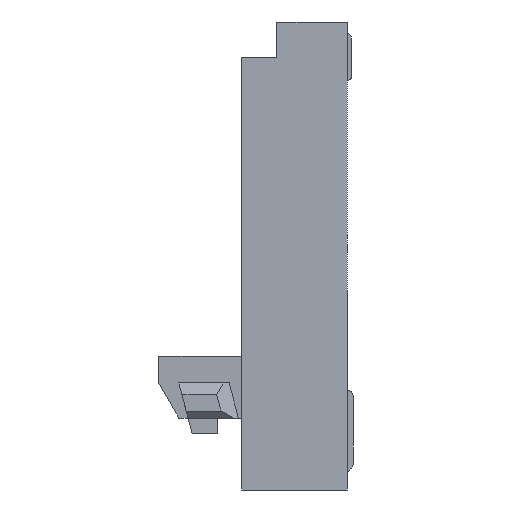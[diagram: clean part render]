
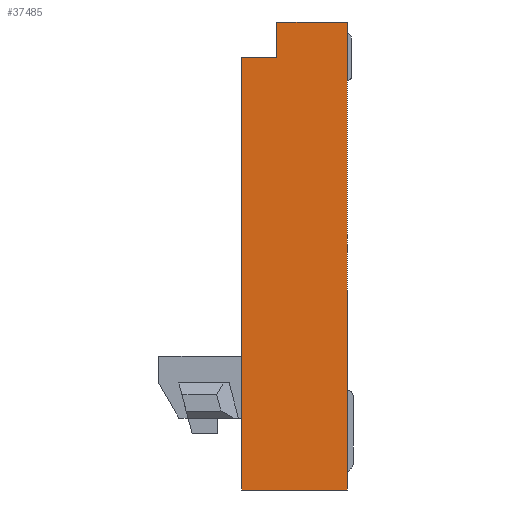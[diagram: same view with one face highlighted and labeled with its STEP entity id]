
A CAD part, left-side view. The second image highlights one B-rep face of the part: STEP entity #37485.
In plain terms, the highlighted planar face has unit normal (-1, 0, 0).
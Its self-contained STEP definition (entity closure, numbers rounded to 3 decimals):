
#938 = EDGE_CURVE ( 'NONE', #39872, #39873, #36174, .T. ) ;
#6388 = ORIENTED_EDGE ( 'NONE', *, *, #38498, .F. ) ;
#6389 = ORIENTED_EDGE ( 'NONE', *, *, #38495, .T. ) ;
#6390 = ORIENTED_EDGE ( 'NONE', *, *, #38497, .F. ) ;
#6391 = ORIENTED_EDGE ( 'NONE', *, *, #938, .T. ) ;
#6392 = ORIENTED_EDGE ( 'NONE', *, *, #37242, .T. ) ;
#6393 = ORIENTED_EDGE ( 'NONE', *, *, #37247, .T. ) ;
#11780 = VECTOR ( 'NONE', #25465, 1000. ) ;
#16584 = LINE ( 'NONE', #26509, #20020 ) ;
#16588 = LINE ( 'NONE', #26520, #20025 ) ;
#16766 = FACE_OUTER_BOUND ( 'NONE', #39384, .T. ) ;
#18615 = CARTESIAN_POINT ( 'NONE',  ( -7.7, 0., -4. ) ) ;
#18616 = CARTESIAN_POINT ( 'NONE',  ( -7.7, 0., 0. ) ) ;
#20020 = VECTOR ( 'NONE', #26510, 1000. ) ;
#20025 = VECTOR ( 'NONE', #26521, 1000. ) ;
#20326 = AXIS2_PLACEMENT_3D ( 'NONE', #27093, #27094, #27095 ) ;
#22381 = VECTOR ( 'NONE', #23025, 1000. ) ;
#22383 = VECTOR ( 'NONE', #23029, 1000. ) ;
#22384 = VECTOR ( 'NONE', #23031, 1000. ) ;
#23024 = CARTESIAN_POINT ( 'NONE',  ( -7.7, 0.9, 0. ) ) ;
#23025 = DIRECTION ( 'NONE',  ( 0., 1., 0. ) ) ;
#23028 = CARTESIAN_POINT ( 'NONE',  ( -7.7, 0., 0. ) ) ;
#23029 = DIRECTION ( 'NONE',  ( 0., 0., -1. ) ) ;
#23030 = CARTESIAN_POINT ( 'NONE',  ( -7.7, 0., -4. ) ) ;
#23031 = DIRECTION ( 'NONE',  ( 0., 1., 0. ) ) ;
#24214 = LINE ( 'NONE', #23024, #22381 ) ;
#24216 = LINE ( 'NONE', #23028, #22383 ) ;
#24217 = LINE ( 'NONE', #23030, #22384 ) ;
#25465 = DIRECTION ( 'NONE',  ( 0., 1., 0. ) ) ;
#25466 = CARTESIAN_POINT ( 'NONE',  ( -7.7, 1.5, -0.3 ) ) ;
#26509 = CARTESIAN_POINT ( 'NONE',  ( -7.7, 0.6, 0. ) ) ;
#26510 = DIRECTION ( 'NONE',  ( 0., 0., -1. ) ) ;
#26520 = CARTESIAN_POINT ( 'NONE',  ( -7.7, 0.9, 0. ) ) ;
#26521 = DIRECTION ( 'NONE',  ( 0., 0., -1. ) ) ;
#27092 = PLANE ( 'NONE',  #20326 ) ;
#27093 = CARTESIAN_POINT ( 'NONE',  ( -7.7, 0.9, 0. ) ) ;
#27094 = DIRECTION ( 'NONE',  ( -1., 0., 0. ) ) ;
#27095 = DIRECTION ( 'NONE',  ( 0., 0., 1. ) ) ;
#35038 = VERTEX_POINT ( 'NONE', #18615 ) ;
#35039 = VERTEX_POINT ( 'NONE', #18616 ) ;
#36174 = LINE ( 'NONE', #25466, #11780 ) ;
#37242 = EDGE_CURVE ( 'NONE', #39762, #39872, #16584, .T. ) ;
#37247 = EDGE_CURVE ( 'NONE', #39873, #40036, #16588, .T. ) ;
#37485 = ADVANCED_FACE ( 'NONE', ( #16766 ), #27092, .T. ) ;
#38495 = EDGE_CURVE ( 'NONE', #35039, #39762, #24214, .T. ) ;
#38497 = EDGE_CURVE ( 'NONE', #35039, #35038, #24216, .T. ) ;
#38498 = EDGE_CURVE ( 'NONE', #35038, #40036, #24217, .T. ) ;
#39384 = EDGE_LOOP ( 'NONE', ( #6388, #6390, #6389, #6392, #6391, #6393 ) ) ;
#39762 = VERTEX_POINT ( 'NONE', #43024 ) ;
#39872 = VERTEX_POINT ( 'NONE', #43207 ) ;
#39873 = VERTEX_POINT ( 'NONE', #43209 ) ;
#40036 = VERTEX_POINT ( 'NONE', #43481 ) ;
#43024 = CARTESIAN_POINT ( 'NONE',  ( -7.7, 0.6, 0. ) ) ;
#43207 = CARTESIAN_POINT ( 'NONE',  ( -7.7, 0.6, -0.3 ) ) ;
#43209 = CARTESIAN_POINT ( 'NONE',  ( -7.7, 0.9, -0.3 ) ) ;
#43481 = CARTESIAN_POINT ( 'NONE',  ( -7.7, 0.9, -4. ) ) ;
